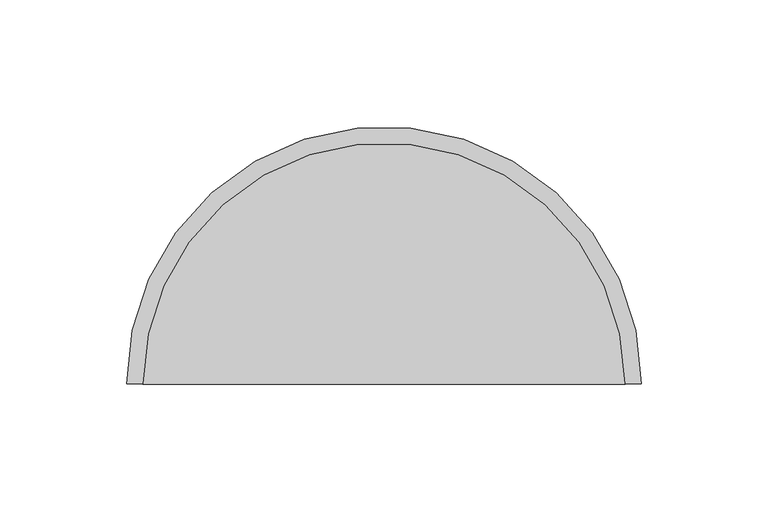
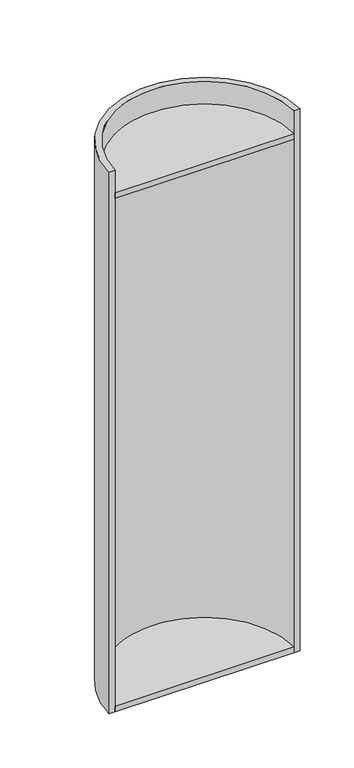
"""IFC4 building model written with IfcOpenShell, lengths in millimetres: light fixture geometry, Applique murale - 03 : Applique murale - 03."""

import ifcopenshell
import ifcopenshell.guid

model = None  # the IFC model being written
_history = None  # IfcOwnerHistory: only IFC2X3 demands one
_inside = {}  # id of a spatial element -> (the spatial element, [elements in it])
_under = {}  # id of a project, library or spatial element -> (it, [spatial elements below it])
_declared = {}  # id of a project -> (the project, [libraries it declares])
_typed = {}  # id of a type object -> (the type object, [elements of that type])
_made_of = {}  # id of a material, layer set ... -> (it, [elements and type objects made of it])


def new_model(schema):
    """Start an empty IFC model of exactly this schema.

    Asked for "IFC4X3", IfcOpenShell would pick the latest addendum, in which some entities
    have other attributes; the version numbers below select the first issue.
    IFC2X3 requires an IfcOwnerHistory on every rooted entity: one is made here for all.
    """
    global model, _history
    if schema == "IFC4X3":
        model = ifcopenshell.file(schema_version=(4, 3, 0, 0))
    else:
        model = ifcopenshell.file(schema=schema)
    _inside.clear()
    _under.clear()
    _declared.clear()
    _typed.clear()
    _made_of.clear()
    _history = None
    if model.schema == "IFC2X3":
        org = make("IfcOrganization", Name="unknown")
        user = make(
            "IfcPersonAndOrganization",
            ThePerson=make("IfcPerson", FamilyName="unknown"),
            TheOrganization=org,
        )
        app = make(
            "IfcApplication",
            ApplicationDeveloper=org,
            Version="unknown",
            ApplicationFullName="unknown",
            ApplicationIdentifier="unknown",
        )
        _history = make(
            "IfcOwnerHistory",
            OwningUser=user,
            OwningApplication=app,
            ChangeAction="ADDED",
            CreationDate=0,
        )
    return model


def make(cls, **values):
    """One entity of the class cls with the attributes given. An attribute that is None is left unset."""
    return model.create_entity(
        cls, **{name: value for name, value in values.items() if value is not None}
    )


def rooted(cls, **values):
    """An entity with a GlobalId (a new one), such as an element, a storey or a relation."""
    return make(cls, GlobalId=ifcopenshell.guid.new(), OwnerHistory=_history, **values)


def si_unit(unit_type, name, prefix=None):
    """IfcSIUnit, for example si_unit("LENGTHUNIT", "METRE", prefix="MILLI")."""
    return make("IfcSIUnit", UnitType=unit_type, Prefix=prefix, Name=name)


def assignment(units):
    """IfcUnitAssignment: the units of a project."""
    return None if units is None else make("IfcUnitAssignment", Units=units)


def point(xyz):
    """IfcCartesianPoint."""
    return None if xyz is None else make("IfcCartesianPoint", Coordinates=xyz)


def direction(xyz):
    """IfcDirection."""
    return None if xyz is None else make("IfcDirection", DirectionRatios=xyz)


def frame(location, z_axis=None, x_axis=None):
    """IfcAxis2Placement3D, a coordinate frame: its origin and axes. An axis left out is left unset."""
    return make(
        "IfcAxis2Placement3D",
        Location=point(location),
        Axis=direction(z_axis),
        RefDirection=direction(x_axis),
    )


def frame_2d(location, x_axis=None):
    """IfcAxis2Placement2D, a coordinate frame in the plane: its origin and x axis."""
    return make(
        "IfcAxis2Placement2D", Location=point(location), RefDirection=direction(x_axis)
    )


def origin():
    """The frame at (0, 0, 0) with its axes left unset."""
    return frame((0.0, 0.0, 0.0))


def place(relative_to, where):
    """IfcLocalPlacement: puts the frame where relative to a parent placement (None: the world)."""
    return make(
        "IfcLocalPlacement", PlacementRelTo=relative_to, RelativePlacement=where
    )


def context(
    kind, dimensions, precision=None, world=None, true_north=None, identifier=None
):
    """IfcGeometricRepresentationContext, for example the 3D "Model" context."""
    return make(
        "IfcGeometricRepresentationContext",
        ContextIdentifier=identifier,
        ContextType=kind,
        CoordinateSpaceDimension=dimensions,
        Precision=precision,
        WorldCoordinateSystem=world,
        TrueNorth=true_north,
    )


def project(units=None, contexts=None):
    """IfcProject with its units and contexts."""
    return rooted(
        "IfcProject",
        Name="project",
        RepresentationContexts=contexts,
        UnitsInContext=assignment(units),
    )


def spatial(cls, under=None, at=None, **own):
    """A site, building, storey or space (cls), placed at a placement, below another one or the project."""
    s = rooted(cls, ObjectPlacement=at, **own)
    if under is not None:
        _under.setdefault(under.id(), (under, []))[1].append(s)
    return s


def polyline(points):
    """IfcPolyline through the points."""
    return make("IfcPolyline", Points=[point(p) for p in points])


def circle_curve(where, radius):
    """IfcCircle in the frame where."""
    return make("IfcCircle", Position=where, Radius=radius)


def trimmed(basis, trim1, trim2, sense, master):
    """IfcTrimmedCurve: the piece of a basis curve between two trims."""
    return make(
        "IfcTrimmedCurve",
        BasisCurve=basis,
        Trim1=trim1,
        Trim2=trim2,
        SenseAgreement=sense,
        MasterRepresentation=master,
    )


def segment(curve, same_sense, transition):
    """IfcCompositeCurveSegment."""
    return make(
        "IfcCompositeCurveSegment",
        Transition=transition,
        SameSense=same_sense,
        ParentCurve=curve,
    )


def composite_curve(segments, self_intersect=None):
    """IfcCompositeCurve: segments joined end to end."""
    return make("IfcCompositeCurve", Segments=segments, SelfIntersect=self_intersect)


def outline(outer, holes=None, kind="AREA"):
    """IfcArbitraryClosedProfileDef: a profile drawn as a closed curve; with holes, ...WithVoids."""
    if holes is None:
        return make("IfcArbitraryClosedProfileDef", ProfileType=kind, OuterCurve=outer)
    return make(
        "IfcArbitraryProfileDefWithVoids",
        ProfileType=kind,
        OuterCurve=outer,
        InnerCurves=holes,
    )


def extrude(swept, where, along, depth):
    """IfcExtrudedAreaSolid: the profile swept, set in the frame where, extruded along a direction by depth."""
    return make(
        "IfcExtrudedAreaSolid",
        SweptArea=swept,
        Position=where,
        ExtrudedDirection=direction(along),
        Depth=depth,
    )


def shape(context_of_items, identifier, shape_type, items):
    """IfcShapeRepresentation: the items that make up one representation, for example the "Body"."""
    return make(
        "IfcShapeRepresentation",
        ContextOfItems=context_of_items,
        RepresentationIdentifier=identifier,
        RepresentationType=shape_type,
        Items=items,
    )


def source(mapping_origin, context_of_items, identifier, shape_type, items):
    """IfcRepresentationMap: a shape defined once, which mapped items show again and again."""
    return make(
        "IfcRepresentationMap",
        MappingOrigin=mapping_origin,
        MappedRepresentation=shape(context_of_items, identifier, shape_type, items),
    )


def transform(
    local_origin,
    x_axis=None,
    y_axis=None,
    z_axis=None,
    scale=None,
    scale2=None,
    scale3=None,
    uniform=True,
):
    """IfcCartesianTransformationOperator3D, or its non-uniform kind. x_axis, y_axis, z_axis: its Axis1, 2, 3."""
    if uniform:
        return make(
            "IfcCartesianTransformationOperator3D",
            Axis1=direction(x_axis),
            Axis2=direction(y_axis),
            LocalOrigin=point(local_origin),
            Scale=scale,
            Axis3=direction(z_axis),
        )
    return make(
        "IfcCartesianTransformationOperator3DnonUniform",
        Axis1=direction(x_axis),
        Axis2=direction(y_axis),
        LocalOrigin=point(local_origin),
        Scale=scale,
        Axis3=direction(z_axis),
        Scale2=scale2,
        Scale3=scale3,
    )


def mapped(mapping_source, mapping_target):
    """IfcMappedItem: shows the shape of a source again, moved by a transform."""
    return make(
        "IfcMappedItem", MappingSource=mapping_source, MappingTarget=mapping_target
    )


def made_of(thing, what):
    """Note that an element or type object is made of a material, layer set ...; save() writes the relation."""
    if what is not None:
        _made_of.setdefault(what.id(), (what, []))[1].append(thing)
    return thing


def element(
    cls,
    number,
    at=None,
    inside=None,
    cuts=None,
    type_object=None,
    material=None,
    context=None,
    identifier="Body",
    shape_type=None,
    held_by="IfcProductDefinitionShape",
    body=None,
    shapes=None,
    **own,
):
    """One element of the class cls, such as IfcWall. Its Tag is "e" and its number.

    at: its placement. inside: the storey or other place that contains it. cuts: it is an
    opening in that element (IfcRelVoidsElement). A single representation is given by context,
    identifier, shape_type and body (its items); several are given by shapes. held_by: the class
    of the entity that holds the representations. save() writes the other relations.
    """
    e = rooted(cls, Tag="e%d" % number, ObjectPlacement=at, **own)
    if body is not None:
        shapes = [shape(context, identifier, shape_type, body)]
    if shapes is not None:
        e.Representation = make(held_by, Representations=shapes)
    if inside is not None:
        _inside.setdefault(inside.id(), (inside, []))[1].append(e)
    if cuts is not None:
        rooted(
            "IfcRelVoidsElement", RelatingBuildingElement=cuts, RelatedOpeningElement=e
        )
    if type_object is not None:
        _typed.setdefault(type_object.id(), (type_object, []))[1].append(e)
    return made_of(e, material)


def aggregate(whole, parts):
    """IfcRelAggregates: a whole, such as a stair, and the parts it consists of."""
    return rooted("IfcRelAggregates", RelatingObject=whole, RelatedObjects=parts)


def save(model, path):
    """Write the relations noted so far, then the file.

    IfcRelAggregates (storeys below a building ...), IfcRelContainedInSpatialStructure (elements
    in a storey), IfcRelDefinesByType, IfcRelAssociatesMaterial and IfcRelDeclares: one each for
    every whole, place, type object, material and project.
    """
    for whole, parts in _under.values():
        aggregate(whole, parts)
    for where, things in _inside.values():
        rooted(
            "IfcRelContainedInSpatialStructure",
            RelatedElements=things,
            RelatingStructure=where,
        )
    for kind, things in _typed.values():
        rooted("IfcRelDefinesByType", RelatedObjects=things, RelatingType=kind)
    for what, things in _made_of.values():
        rooted("IfcRelAssociatesMaterial", RelatedObjects=things, RelatingMaterial=what)
    for by, libraries in _declared.values():
        rooted("IfcRelDeclares", RelatingContext=by, RelatedDefinitions=libraries)
    model.write(path)


def light_fixture_441b7e79(model_context):
    return source(origin(), model_context, "Body", "SweptSolid", [
        extrude(outline(composite_curve([segment(polyline([(58.8943373, 100.0), (-131.6056627, 100.0)]), True, "CONTINUOUS"), segment(trimmed(circle_curve(frame_2d((-36.3556627, 100.0)), 95.25), [point((-131.6056627, 100.0))], [point((58.8943373, 100.0))], False, "CARTESIAN"), True, "CONTINUOUS")], self_intersect=False)), frame((0.0, 0.0, 1625.6), z_axis=(0.0, 0.0, 1.0), x_axis=(1.0, 0.0, 0.0)), (0.0, 0.0, 1.0), 6.35),
        extrude(outline(composite_curve([segment(polyline([(58.8943373, 100.0), (-131.6056627, 100.0)]), True, "CONTINUOUS"), segment(trimmed(circle_curve(frame_2d((-36.3556627, 100.0)), 95.25), [point((-131.6056627, 100.0))], [point((58.8943373, 100.0))], False, "CARTESIAN"), True, "CONTINUOUS")], self_intersect=False)), frame((0.0, 0.0, 2203.45), z_axis=(0.0, 0.0, 1.0), x_axis=(1.0, 0.0, 0.0)), (0.0, 0.0, 1.0), 6.35),
        extrude(outline(composite_curve([segment(trimmed(circle_curve(frame_2d((-36.3556627, 100.0)), 101.6), [point((-137.9556627, 100.0))], [point((65.2443373, 100.0))], False, "CARTESIAN"), True, "CONTINUOUS"), segment(polyline([(65.2443373, 100.0), (58.8943373, 100.0)]), True, "CONTINUOUS"), segment(trimmed(circle_curve(frame_2d((-36.3556627, 100.0)), 95.25), [point((58.8943373, 100.0))], [point((-131.6056627, 100.0))], True, "CARTESIAN"), True, "CONTINUOUS"), segment(polyline([(-131.6056627, 100.0), (-137.9556627, 100.0)]), True, "CONTINUOUS")], self_intersect=False)), frame((0.0, 0.0, 1625.6), z_axis=(0.0, 0.0, 1.0), x_axis=(1.0, 0.0, 0.0)), (0.0, 0.0, 1.0), 609.6),
    ])


if __name__ == "__main__":
    model = new_model("IFC4")
    model_context = context("Model", 3, world=origin())
    ifc_project = project(units=[si_unit("LENGTHUNIT", "METRE", prefix="MILLI")], contexts=[model_context])
    site = spatial("IfcSite", under=ifc_project)
    building = spatial("IfcBuilding", under=site)
    placement = place(None, origin())
    light_fixture_shape = light_fixture_441b7e79(model_context)
    element("IfcLightFixture", 1, ObjectType="Applique murale - 03 : Applique murale - 03", at=placement, inside=building, context=model_context, shape_type="MappedRepresentation", body=[
        mapped(light_fixture_shape, transform((0.0, 0.0, 0.0), x_axis=(1.0, 0.0, 0.0), y_axis=(0.0, 1.0, 0.0), z_axis=(0.0, 0.0, 1.0))),
    ])
    save(model, "model.ifc")
